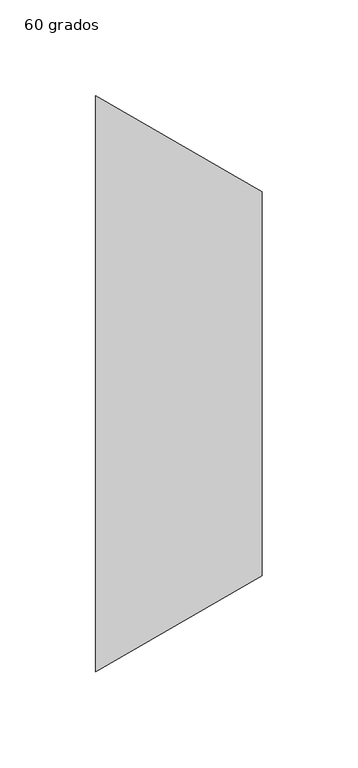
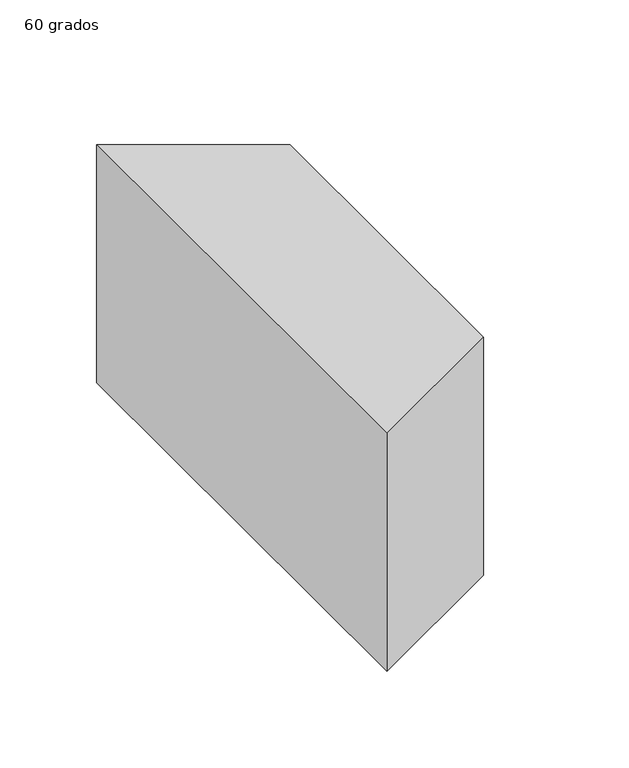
"""IFC4 building model written with IfcOpenShell, lengths in millimetres: duct fitting geometry, M_Transición rectangular - Ángulo : 60 grados."""

from ifc_helpers import new_model, si_unit, frame, origin, place, context, project, spatial, polyline, outline, extrude, source, transform, mapped, element, save


def duct_fitting_60_grados_4f530bbb(model_context):
    return source(origin(), model_context, "Body", "SweptSolid", [
        extrude(outline(polyline([(0.0, -150.0), (0.0, 150.0), (86.6025404, 100.0), (86.6025404, -100.0), (0.0, -150.0)])), frame((0.0, 0.0, -75.0), z_axis=(0.0, 0.0, 1.0), x_axis=(1.0, 0.0, 0.0)), (0.0, 0.0, 1.0), 150.0),
    ])


if __name__ == "__main__":
    model = new_model("IFC4")
    model_context = context("Model", 3, world=origin())
    ifc_project = project(units=[si_unit("LENGTHUNIT", "METRE", prefix="MILLI")], contexts=[model_context])
    site = spatial("IfcSite", under=ifc_project)
    building = spatial("IfcBuilding", under=site)
    placement = place(None, origin())
    duct_fitting_60_grados_shape = duct_fitting_60_grados_4f530bbb(model_context)
    element("IfcDuctFitting", 1, ObjectType="M_Transición rectangular - Ángulo : 60 grados", at=placement, inside=building, context=model_context, shape_type="MappedRepresentation", body=[
        mapped(duct_fitting_60_grados_shape, transform((0.0, 0.0, 0.0), x_axis=(1.0, 0.0, 0.0), y_axis=(0.0, 1.0, 0.0), z_axis=(0.0, 0.0, 1.0))),
    ])
    save(model, "model.ifc")
